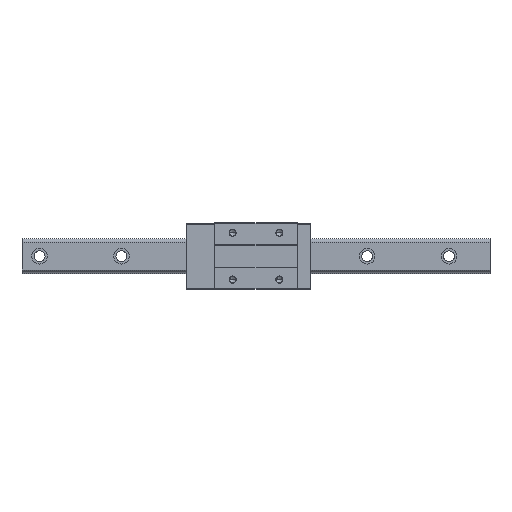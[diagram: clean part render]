
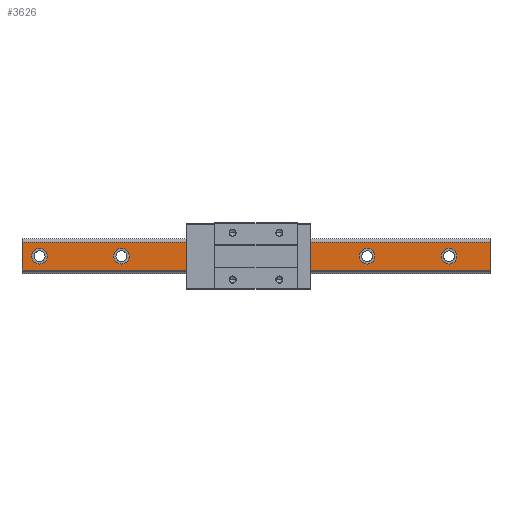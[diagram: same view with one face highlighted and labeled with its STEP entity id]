
A CAD part, top view. The second image highlights one B-rep face of the part: STEP entity #3626.
In plain terms, the highlighted planar face has unit normal (0, 0, 1).
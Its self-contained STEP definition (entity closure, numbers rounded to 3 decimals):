
#15 = ORIENTED_EDGE ( 'NONE', *, *, #2140, .T. ) ;
#40 = DIRECTION ( 'NONE',  ( 0., 0., 1. ) ) ;
#121 = CIRCLE ( 'NONE', #834, 10. ) ;
#145 = ORIENTED_EDGE ( 'NONE', *, *, #1262, .F. ) ;
#160 = EDGE_LOOP ( 'NONE', ( #1214, #2845 ) ) ;
#169 = EDGE_LOOP ( 'NONE', ( #145, #3643 ) ) ;
#190 = DIRECTION ( 'NONE',  ( 0., 0., 1. ) ) ;
#247 = VERTEX_POINT ( 'NONE', #4031 ) ;
#296 = CIRCLE ( 'NONE', #3444, 10. ) ;
#400 = DIRECTION ( 'NONE',  ( 1., 0., 0. ) ) ;
#407 = CARTESIAN_POINT ( 'NONE',  ( -287.5, 0., 32. ) ) ;
#412 = AXIS2_PLACEMENT_3D ( 'NONE', #4797, #940, #828 ) ;
#449 = EDGE_CURVE ( 'NONE', #4425, #1309, #2938, .T. ) ;
#451 = FACE_OUTER_BOUND ( 'NONE', #738, .T. ) ;
#460 = AXIS2_PLACEMENT_3D ( 'NONE', #2565, #3413, #4784 ) ;
#548 = EDGE_CURVE ( 'NONE', #247, #1614, #3934, .T. ) ;
#576 = CARTESIAN_POINT ( 'NONE',  ( -277.5, 0., 32. ) ) ;
#577 = DIRECTION ( 'NONE',  ( 1., 0., 0. ) ) ;
#602 = CARTESIAN_POINT ( 'NONE',  ( -277.5, 0., 32. ) ) ;
#603 = EDGE_CURVE ( 'NONE', #1733, #1205, #2071, .T. ) ;
#612 = EDGE_CURVE ( 'NONE', #5359, #5517, #2714, .T. ) ;
#660 = DIRECTION ( 'NONE',  ( 0., 0., 1. ) ) ;
#738 = EDGE_LOOP ( 'NONE', ( #15, #3757, #2091, #4348 ) ) ;
#820 = VERTEX_POINT ( 'NONE', #2330 ) ;
#828 = DIRECTION ( 'NONE',  ( 1., 0., 0. ) ) ;
#834 = AXIS2_PLACEMENT_3D ( 'NONE', #602, #190, #1895 ) ;
#850 = FACE_BOUND ( 'NONE', #160, .T. ) ;
#900 = FACE_BOUND ( 'NONE', #2647, .T. ) ;
#933 = DIRECTION ( 'NONE',  ( 0., 0., -1. ) ) ;
#940 = DIRECTION ( 'NONE',  ( 0., 0., 1. ) ) ;
#989 = AXIS2_PLACEMENT_3D ( 'NONE', #576, #660, #1439 ) ;
#1042 = DIRECTION ( 'NONE',  ( 1., 0., 0. ) ) ;
#1205 = VERTEX_POINT ( 'NONE', #4037 ) ;
#1214 = ORIENTED_EDGE ( 'NONE', *, *, #3202, .F. ) ;
#1262 = EDGE_CURVE ( 'NONE', #3591, #1389, #3342, .T. ) ;
#1309 = VERTEX_POINT ( 'NONE', #5086 ) ;
#1314 = ORIENTED_EDGE ( 'NONE', *, *, #3718, .F. ) ;
#1319 = CARTESIAN_POINT ( 'NONE',  ( -172.5, 0., 32. ) ) ;
#1367 = VERTEX_POINT ( 'NONE', #2487 ) ;
#1389 = VERTEX_POINT ( 'NONE', #407 ) ;
#1439 = DIRECTION ( 'NONE',  ( 1., 0., 0. ) ) ;
#1513 = VECTOR ( 'NONE', #2390, 1000. ) ;
#1515 = CARTESIAN_POINT ( 'NONE',  ( -300., -17.696, 32. ) ) ;
#1531 = EDGE_LOOP ( 'NONE', ( #1314, #4683 ) ) ;
#1554 = ORIENTED_EDGE ( 'NONE', *, *, #3635, .F. ) ;
#1561 = DIRECTION ( 'NONE',  ( 0., 0., 1. ) ) ;
#1568 = DIRECTION ( 'NONE',  ( 0., -1., 0. ) ) ;
#1576 = DIRECTION ( 'NONE',  ( -1., 0., 0. ) ) ;
#1614 = VERTEX_POINT ( 'NONE', #1515 ) ;
#1645 = ORIENTED_EDGE ( 'NONE', *, *, #3656, .F. ) ;
#1712 = AXIS2_PLACEMENT_3D ( 'NONE', #2173, #40, #1800 ) ;
#1723 = DIRECTION ( 'NONE',  ( 0., 0., 1. ) ) ;
#1733 = VERTEX_POINT ( 'NONE', #2455 ) ;
#1800 = DIRECTION ( 'NONE',  ( 1., 0., 0. ) ) ;
#1895 = DIRECTION ( 'NONE',  ( 1., 0., 0. ) ) ;
#1908 = AXIS2_PLACEMENT_3D ( 'NONE', #1913, #3653, #3223 ) ;
#1913 = CARTESIAN_POINT ( 'NONE',  ( 142.5, 0., 32. ) ) ;
#1957 = CARTESIAN_POINT ( 'NONE',  ( -77.5, 0., 32. ) ) ;
#1977 = CARTESIAN_POINT ( 'NONE',  ( 247.5, 0., 32. ) ) ;
#1993 = CIRCLE ( 'NONE', #3632, 10. ) ;
#2071 = CIRCLE ( 'NONE', #2898, 10. ) ;
#2091 = ORIENTED_EDGE ( 'NONE', *, *, #4293, .F. ) ;
#2111 = EDGE_CURVE ( 'NONE', #2269, #1367, #4734, .T. ) ;
#2135 = CARTESIAN_POINT ( 'NONE',  ( 300., -17.696, 32. ) ) ;
#2138 = FACE_BOUND ( 'NONE', #169, .T. ) ;
#2140 = EDGE_CURVE ( 'NONE', #1309, #1614, #5023, .T. ) ;
#2144 = CARTESIAN_POINT ( 'NONE',  ( 37.5, 0., 32. ) ) ;
#2161 = DIRECTION ( 'NONE',  ( -1., 0., 0. ) ) ;
#2173 = CARTESIAN_POINT ( 'NONE',  ( 142.5, 0., 32. ) ) ;
#2269 = VERTEX_POINT ( 'NONE', #5124 ) ;
#2307 = CARTESIAN_POINT ( 'NONE',  ( 37.5, 0., 32. ) ) ;
#2330 = CARTESIAN_POINT ( 'NONE',  ( -162.5, 0., 32. ) ) ;
#2390 = DIRECTION ( 'NONE',  ( 0., -1., 0. ) ) ;
#2455 = CARTESIAN_POINT ( 'NONE',  ( 257.5, 0., 32. ) ) ;
#2487 = CARTESIAN_POINT ( 'NONE',  ( 152.5, 0., 32. ) ) ;
#2488 = EDGE_CURVE ( 'NONE', #2836, #3964, #4671, .T. ) ;
#2535 = ORIENTED_EDGE ( 'NONE', *, *, #2568, .F. ) ;
#2544 = VECTOR ( 'NONE', #1568, 1000. ) ;
#2565 = CARTESIAN_POINT ( 'NONE',  ( -67.5, 0., 32. ) ) ;
#2568 = EDGE_CURVE ( 'NONE', #820, #2919, #2847, .T. ) ;
#2626 = DIRECTION ( 'NONE',  ( 0., 0., 1. ) ) ;
#2647 = EDGE_LOOP ( 'NONE', ( #4519, #1645 ) ) ;
#2714 = CIRCLE ( 'NONE', #460, 10. ) ;
#2791 = CARTESIAN_POINT ( 'NONE',  ( -67.5, 0., 32. ) ) ;
#2797 = VECTOR ( 'NONE', #1576, 1000. ) ;
#2836 = VERTEX_POINT ( 'NONE', #4699 ) ;
#2845 = ORIENTED_EDGE ( 'NONE', *, *, #2111, .F. ) ;
#2847 = CIRCLE ( 'NONE', #412, 10. ) ;
#2898 = AXIS2_PLACEMENT_3D ( 'NONE', #3871, #5186, #400 ) ;
#2900 = CIRCLE ( 'NONE', #1712, 10. ) ;
#2919 = VERTEX_POINT ( 'NONE', #3663 ) ;
#2929 = LINE ( 'NONE', #3349, #2544 ) ;
#2938 = LINE ( 'NONE', #4680, #2797 ) ;
#2944 = EDGE_CURVE ( 'NONE', #1205, #1733, #5096, .T. ) ;
#2949 = EDGE_CURVE ( 'NONE', #1389, #3591, #121, .T. ) ;
#2954 = CARTESIAN_POINT ( 'NONE',  ( 300., 17.696, 32. ) ) ;
#3073 = EDGE_LOOP ( 'NONE', ( #2535, #1554 ) ) ;
#3171 = VECTOR ( 'NONE', #2161, 1000. ) ;
#3202 = EDGE_CURVE ( 'NONE', #1367, #2269, #2900, .T. ) ;
#3214 = AXIS2_PLACEMENT_3D ( 'NONE', #2144, #1723, #3461 ) ;
#3223 = DIRECTION ( 'NONE',  ( 1., 0., 0. ) ) ;
#3249 = DIRECTION ( 'NONE',  ( 0., 0., 1. ) ) ;
#3327 = ORIENTED_EDGE ( 'NONE', *, *, #2944, .F. ) ;
#3342 = CIRCLE ( 'NONE', #989, 10. ) ;
#3349 = CARTESIAN_POINT ( 'NONE',  ( 300., -17.696, 32. ) ) ;
#3354 = AXIS2_PLACEMENT_3D ( 'NONE', #2307, #4908, #1042 ) ;
#3413 = DIRECTION ( 'NONE',  ( 0., 0., 1. ) ) ;
#3444 = AXIS2_PLACEMENT_3D ( 'NONE', #2791, #3249, #4989 ) ;
#3453 = FACE_BOUND ( 'NONE', #4688, .T. ) ;
#3461 = DIRECTION ( 'NONE',  ( 1., 0., 0. ) ) ;
#3482 = FACE_BOUND ( 'NONE', #3073, .T. ) ;
#3508 = CARTESIAN_POINT ( 'NONE',  ( -267.5, 0., 32. ) ) ;
#3591 = VERTEX_POINT ( 'NONE', #3508 ) ;
#3612 = CARTESIAN_POINT ( 'NONE',  ( -57.5, 0., 32. ) ) ;
#3626 = ADVANCED_FACE ( 'NONE', ( #2138, #3482, #900, #5588, #850, #3453, #451 ), #3876, .F. ) ;
#3632 = AXIS2_PLACEMENT_3D ( 'NONE', #1319, #2626, #4371 ) ;
#3635 = EDGE_CURVE ( 'NONE', #2919, #820, #1993, .T. ) ;
#3643 = ORIENTED_EDGE ( 'NONE', *, *, #2949, .F. ) ;
#3653 = DIRECTION ( 'NONE',  ( 0., 0., 1. ) ) ;
#3656 = EDGE_CURVE ( 'NONE', #5517, #5359, #296, .T. ) ;
#3663 = CARTESIAN_POINT ( 'NONE',  ( -182.5, 0., 32. ) ) ;
#3718 = EDGE_CURVE ( 'NONE', #3964, #2836, #4635, .T. ) ;
#3757 = ORIENTED_EDGE ( 'NONE', *, *, #548, .F. ) ;
#3784 = ORIENTED_EDGE ( 'NONE', *, *, #603, .F. ) ;
#3871 = CARTESIAN_POINT ( 'NONE',  ( 247.5, 0., 32. ) ) ;
#3876 = PLANE ( 'NONE',  #4452 ) ;
#3934 = LINE ( 'NONE', #2135, #3171 ) ;
#3964 = VERTEX_POINT ( 'NONE', #4813 ) ;
#4011 = AXIS2_PLACEMENT_3D ( 'NONE', #1977, #1561, #577 ) ;
#4031 = CARTESIAN_POINT ( 'NONE',  ( 300., -17.696, 32. ) ) ;
#4037 = CARTESIAN_POINT ( 'NONE',  ( 237.5, 0., 32. ) ) ;
#4293 = EDGE_CURVE ( 'NONE', #4425, #247, #2929, .T. ) ;
#4348 = ORIENTED_EDGE ( 'NONE', *, *, #449, .T. ) ;
#4371 = DIRECTION ( 'NONE',  ( 1., 0., 0. ) ) ;
#4425 = VERTEX_POINT ( 'NONE', #2954 ) ;
#4452 = AXIS2_PLACEMENT_3D ( 'NONE', #5217, #933, #5611 ) ;
#4519 = ORIENTED_EDGE ( 'NONE', *, *, #612, .F. ) ;
#4635 = CIRCLE ( 'NONE', #3354, 10. ) ;
#4671 = CIRCLE ( 'NONE', #3214, 10. ) ;
#4680 = CARTESIAN_POINT ( 'NONE',  ( 300., 17.696, 32. ) ) ;
#4683 = ORIENTED_EDGE ( 'NONE', *, *, #2488, .F. ) ;
#4688 = EDGE_LOOP ( 'NONE', ( #3784, #3327 ) ) ;
#4699 = CARTESIAN_POINT ( 'NONE',  ( 27.5, 0., 32. ) ) ;
#4734 = CIRCLE ( 'NONE', #1908, 10. ) ;
#4784 = DIRECTION ( 'NONE',  ( 1., 0., 0. ) ) ;
#4797 = CARTESIAN_POINT ( 'NONE',  ( -172.5, 0., 32. ) ) ;
#4813 = CARTESIAN_POINT ( 'NONE',  ( 47.5, 0., 32. ) ) ;
#4908 = DIRECTION ( 'NONE',  ( 0., 0., 1. ) ) ;
#4989 = DIRECTION ( 'NONE',  ( 1., 0., 0. ) ) ;
#5023 = LINE ( 'NONE', #5046, #1513 ) ;
#5046 = CARTESIAN_POINT ( 'NONE',  ( -300., -17.696, 32. ) ) ;
#5086 = CARTESIAN_POINT ( 'NONE',  ( -300., 17.696, 32. ) ) ;
#5096 = CIRCLE ( 'NONE', #4011, 10. ) ;
#5124 = CARTESIAN_POINT ( 'NONE',  ( 132.5, 0., 32. ) ) ;
#5186 = DIRECTION ( 'NONE',  ( 0., 0., 1. ) ) ;
#5217 = CARTESIAN_POINT ( 'NONE',  ( 300., -17.696, 32. ) ) ;
#5359 = VERTEX_POINT ( 'NONE', #3612 ) ;
#5517 = VERTEX_POINT ( 'NONE', #1957 ) ;
#5588 = FACE_BOUND ( 'NONE', #1531, .T. ) ;
#5611 = DIRECTION ( 'NONE',  ( -1., 0., 0. ) ) ;
